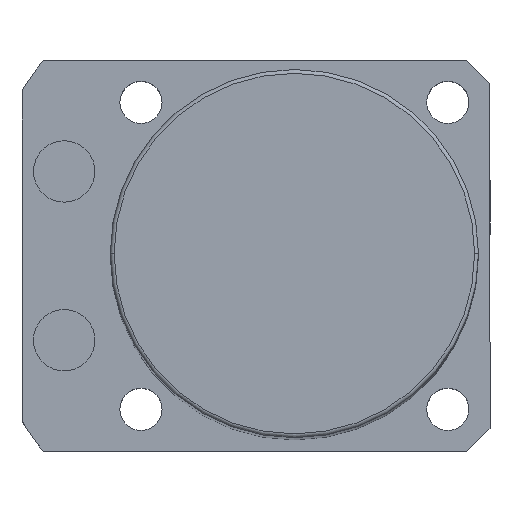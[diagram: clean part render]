
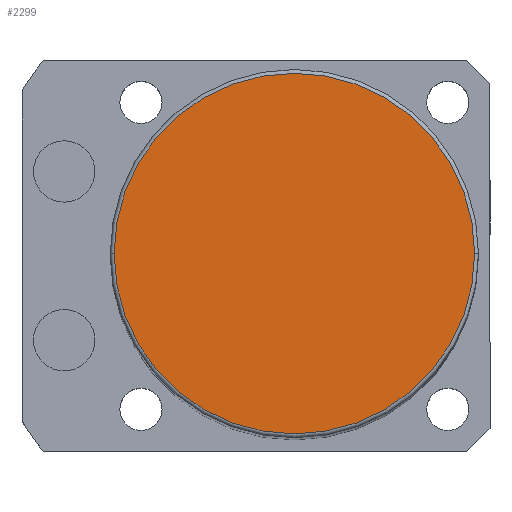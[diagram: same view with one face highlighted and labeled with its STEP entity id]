
A CAD part, top view. The second image highlights one B-rep face of the part: STEP entity #2299.
In plain terms, the highlighted planar face has unit normal (0, 0, 1).
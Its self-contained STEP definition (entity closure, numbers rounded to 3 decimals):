
#14 = FACE_OUTER_BOUND ( 'NONE', #311, .T. ) ;
#33 = DIRECTION ( 'NONE',  ( 1., 0., 0. ) ) ;
#53 = AXIS2_PLACEMENT_3D ( 'NONE', #2052, #219, #33 ) ;
#219 = DIRECTION ( 'NONE',  ( 0., 0., 1. ) ) ;
#311 = EDGE_LOOP ( 'NONE', ( #648, #1474 ) ) ;
#333 = EDGE_CURVE ( 'NONE', #537, #1361, #2165, .T. ) ;
#341 = CARTESIAN_POINT ( 'NONE',  ( 23.5, 0., 181. ) ) ;
#351 = CARTESIAN_POINT ( 'NONE',  ( -23.5, 0., 181. ) ) ;
#537 = VERTEX_POINT ( 'NONE', #341 ) ;
#648 = ORIENTED_EDGE ( 'NONE', *, *, #333, .T. ) ;
#988 = CARTESIAN_POINT ( 'NONE',  ( 0., 0., 181. ) ) ;
#1128 = DIRECTION ( 'NONE',  ( 1., 0., 0. ) ) ;
#1308 = CARTESIAN_POINT ( 'NONE',  ( 0., 0., 181. ) ) ;
#1361 = VERTEX_POINT ( 'NONE', #351 ) ;
#1474 = ORIENTED_EDGE ( 'NONE', *, *, #2300, .T. ) ;
#1494 = DIRECTION ( 'NONE',  ( 0., 0., 1. ) ) ;
#1591 = CIRCLE ( 'NONE', #53, 23.5 ) ;
#1674 = PLANE ( 'NONE',  #1822 ) ;
#1812 = AXIS2_PLACEMENT_3D ( 'NONE', #988, #1925, #2269 ) ;
#1822 = AXIS2_PLACEMENT_3D ( 'NONE', #1308, #1494, #1128 ) ;
#1925 = DIRECTION ( 'NONE',  ( 0., 0., 1. ) ) ;
#2052 = CARTESIAN_POINT ( 'NONE',  ( 0., 0., 181. ) ) ;
#2165 = CIRCLE ( 'NONE', #1812, 23.5 ) ;
#2269 = DIRECTION ( 'NONE',  ( 1., 0., 0. ) ) ;
#2299 = ADVANCED_FACE ( 'NONE', ( #14 ), #1674, .T. ) ;
#2300 = EDGE_CURVE ( 'NONE', #1361, #537, #1591, .T. ) ;
